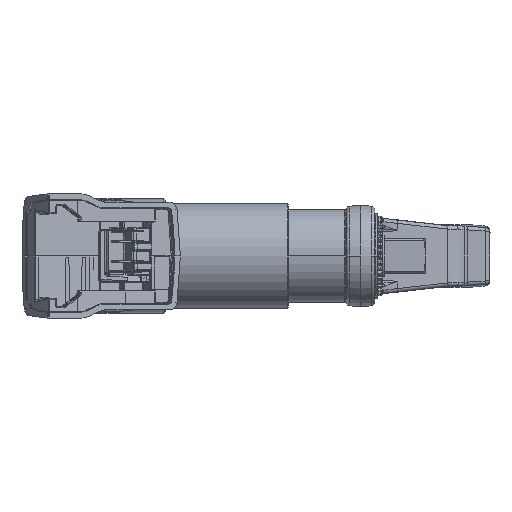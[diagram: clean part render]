
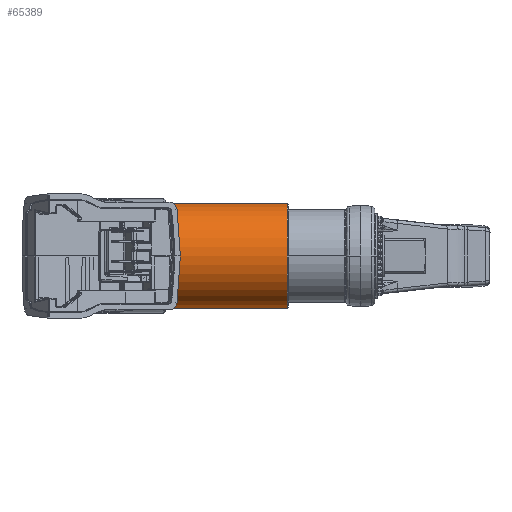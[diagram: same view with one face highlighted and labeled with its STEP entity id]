
A CAD part, left-side view. The second image highlights one B-rep face of the part: STEP entity #65389.
In plain terms, the highlighted cylindrical face has radius 29.21 mm (diameter 58.42 mm), a partial arc.
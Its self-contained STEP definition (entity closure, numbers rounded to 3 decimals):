
#20417 = EDGE_CURVE ( 'NONE', #238334, #145730, #145686, .T. ) ;
#27838 = AXIS2_PLACEMENT_3D ( 'NONE', #283157, #282866, #282817 ) ;
#53256 = DIRECTION ( 'NONE',  ( 0., -1., 0. ) ) ;
#65389 = ADVANCED_FACE ( 'NONE', ( #286396 ), #286088, .T. ) ;
#65821 = EDGE_CURVE ( 'NONE', #145730, #262999, #165054, .T. ) ;
#100766 = CARTESIAN_POINT ( 'NONE',  ( 132.624, -100.124, -29.21 ) ) ;
#123429 = CARTESIAN_POINT ( 'NONE',  ( 132.624, -32.655, -29.21 ) ) ;
#128535 = VERTEX_POINT ( 'NONE', #237499 ) ;
#129480 = VECTOR ( 'NONE', #53256, 1000. ) ;
#137782 = ORIENTED_EDGE ( 'NONE', *, *, #263403, .F. ) ;
#141355 = ORIENTED_EDGE ( 'NONE', *, *, #277354, .T. ) ;
#142915 = ORIENTED_EDGE ( 'NONE', *, *, #20417, .T. ) ;
#144640 = ORIENTED_EDGE ( 'NONE', *, *, #65821, .T. ) ;
#145686 = LINE ( 'NONE', #236345, #129480 ) ;
#145730 = VERTEX_POINT ( 'NONE', #100766 ) ;
#159624 = EDGE_LOOP ( 'NONE', ( #137782, #141355, #142915, #144640 ) ) ;
#165054 = CIRCLE ( 'NONE', #165463, 29.21 ) ;
#165463 = AXIS2_PLACEMENT_3D ( 'NONE', #254117, #253422, #253383 ) ;
#198768 = AXIS2_PLACEMENT_3D ( 'NONE', #214330, #214376, #214782 ) ;
#198790 = CIRCLE ( 'NONE', #198768, 29.21 ) ;
#209591 = DIRECTION ( 'NONE',  ( 0., -1., 0. ) ) ;
#209876 = CARTESIAN_POINT ( 'NONE',  ( 132.624, -32.258, 29.21 ) ) ;
#209924 = LINE ( 'NONE', #209876, #240212 ) ;
#214330 = CARTESIAN_POINT ( 'NONE',  ( 132.624, -32.655, 0. ) ) ;
#214376 = DIRECTION ( 'NONE',  ( 0., -1., 0. ) ) ;
#214782 = DIRECTION ( 'NONE',  ( 0., 0., -1. ) ) ;
#236345 = CARTESIAN_POINT ( 'NONE',  ( 132.624, -32.258, -29.21 ) ) ;
#237499 = CARTESIAN_POINT ( 'NONE',  ( 132.624, -32.655, 29.21 ) ) ;
#238334 = VERTEX_POINT ( 'NONE', #123429 ) ;
#240212 = VECTOR ( 'NONE', #209591, 1000. ) ;
#248069 = CARTESIAN_POINT ( 'NONE',  ( 132.624, -100.124, 29.21 ) ) ;
#253383 = DIRECTION ( 'NONE',  ( 0., 0., -1. ) ) ;
#253422 = DIRECTION ( 'NONE',  ( 0., 1., 0. ) ) ;
#254117 = CARTESIAN_POINT ( 'NONE',  ( 132.624, -100.124, 0. ) ) ;
#262999 = VERTEX_POINT ( 'NONE', #248069 ) ;
#263403 = EDGE_CURVE ( 'NONE', #128535, #262999, #209924, .T. ) ;
#277354 = EDGE_CURVE ( 'NONE', #128535, #238334, #198790, .T. ) ;
#282817 = DIRECTION ( 'NONE',  ( 0., 0., -1. ) ) ;
#282866 = DIRECTION ( 'NONE',  ( 0., -1., 0. ) ) ;
#283157 = CARTESIAN_POINT ( 'NONE',  ( 132.624, -32.258, 0. ) ) ;
#286088 = CYLINDRICAL_SURFACE ( 'NONE', #27838, 29.21 ) ;
#286396 = FACE_OUTER_BOUND ( 'NONE', #159624, .T. ) ;
